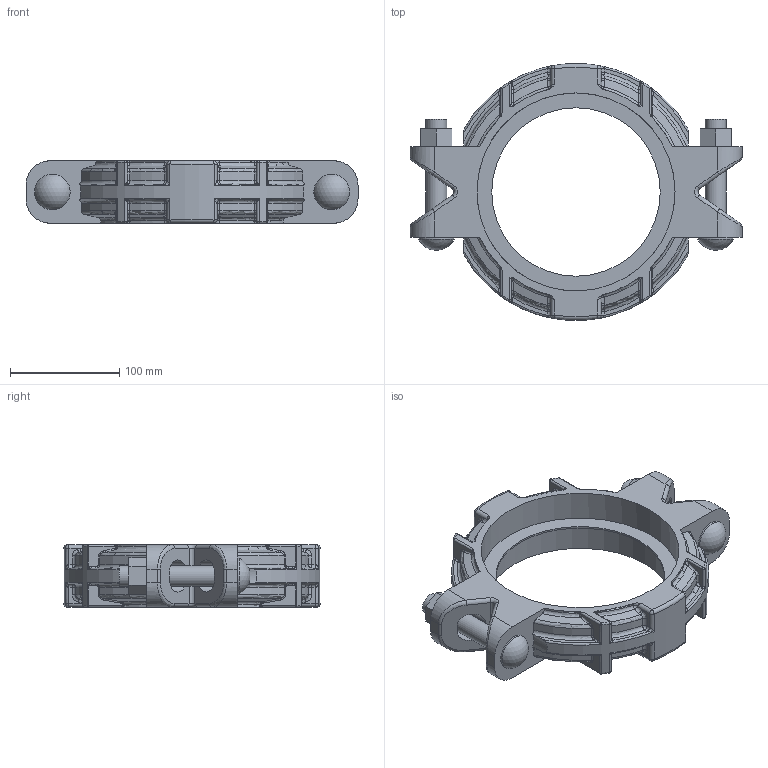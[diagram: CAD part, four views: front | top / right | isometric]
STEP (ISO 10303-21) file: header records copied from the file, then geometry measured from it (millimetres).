
FILE_DESCRIPTION(/* description */ ('VIC COUPLING FLEXIBLE STYLE XL77','CAx-IF Rec.Pracs.---Representation and Presentation of Product Manufacturing Information (PMI)---4.0---2014-10-13'),/* implementation_level */ '2;1');
FILE_NAME(/* name */ 'C:\Users\kkamble\AppData\Roaming\Autodesk\ApplicationPlugins\Back Up\Victaulic_IPS-XL_Coupling Flexible Transition_Style XL77 (XLGxOGS)\Victaulic_IPS-XL_Coupling Flexible Transition_Style XL77 (XLGxOGS)_6 (150).stp',/* time_stamp */ '2020-08-05T13:48:30+05:00',/* author */ ('jheald'),/* organization */ ('Victaulic'),/* preprocessor_version */ 'ST-DEVELOPER v17.2',/* originating_system */ 'Autodesk Inventor 2019',/* authorisation */ '');
FILE_SCHEMA (('AP242_MANAGED_MODEL_BASED_3D_ENGINEERING_MIM_LF { 1 0 10303 442 1 1 4 }'));
Length unit declared in the file: inch
Products named in the file (1): XL77-06.0
Bounding box: 303.35 x 234.56 x 57.15 mm (x, y, z)
Volume: 1125552.4 mm3; surface area: 162984 mm2
Topology: 1 solids, 1 shells, 579 faces, 1382 edges, 793 vertices
Faces by surface type: cylinder 189, bspline 152, torus 96, plane 84, sphere 42, cone 16
Full cylindrical faces by diameter (mm): 19.05 x4, 32.537 x2, 153.987 x1, 168.275 x1, 180.975 x1
Entity records: 22518 total; most frequent: CARTESIAN_POINT 9350, ORIENTED_EDGE 2716, DIRECTION 2489, EDGE_CURVE 1358, AXIS2_PLACEMENT_3D 1054, VERTEX_POINT 793, EDGE_LOOP 597, CIRCLE 589
